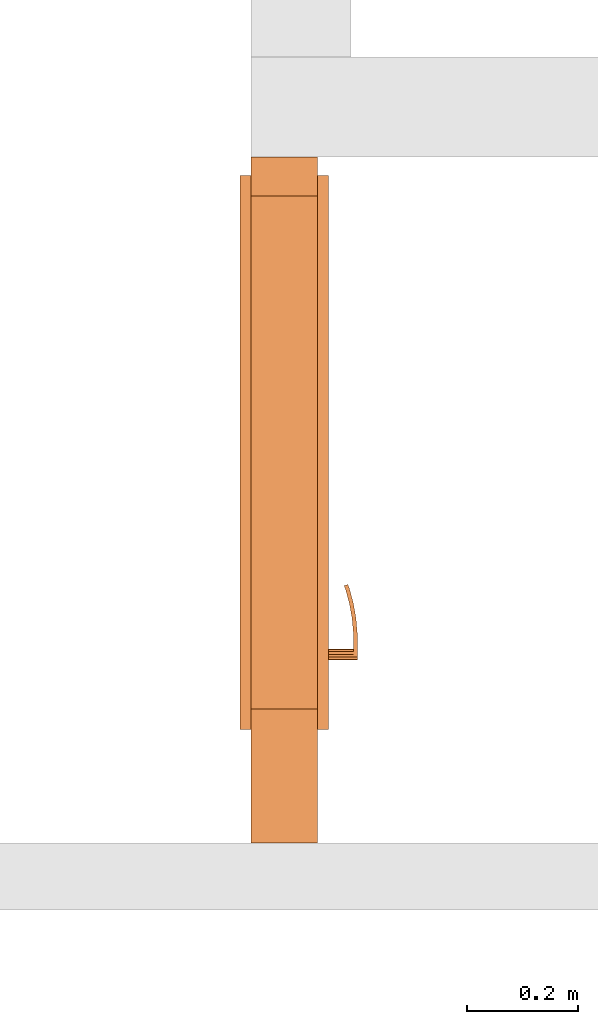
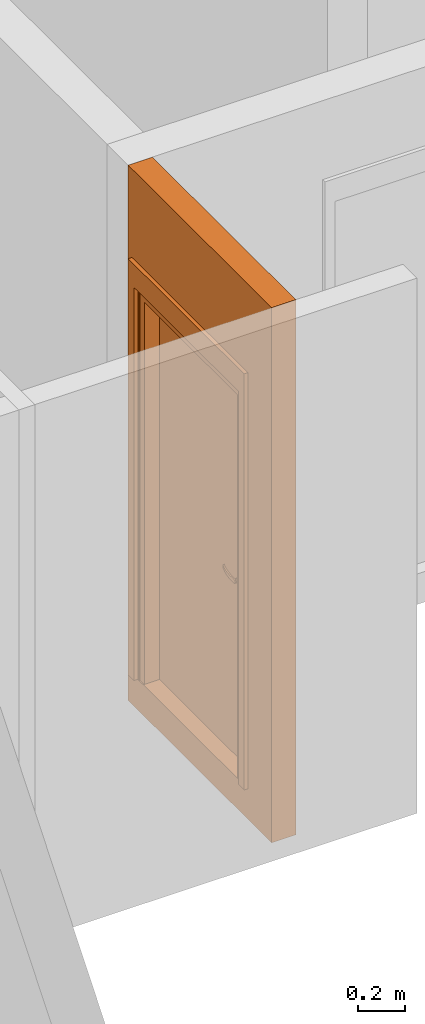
# One storey, part 17 of 64: 2 proxies, 1 opening.
"""IFC2X3 building model written with IfcOpenShell, lengths in millimetres."""

from ifc_helpers import new_model, entity, si_unit, converted_unit, derived_unit, money_unit, direction, frame, origin_with_axes, origin_2d_with_axis, place, context, subcontext, project, spatial, rectangle, extrude, open_shell, faceted_brep, surface_model, source, transform, mapped, material, type_object, element, fill, save


model = new_model("IFC2X3")

# Units and contexts
model_context = context("Model", 3, precision=0.01, world=origin_with_axes(), true_north=direction((0.34421633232, 0.938890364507)))
body_context = subcontext(model_context, "Body", "Model", "MODEL_VIEW")
ifc_project = project(units=[si_unit("LENGTHUNIT", "METRE", prefix="MILLI"), si_unit("AREAUNIT", "SQUARE_METRE"), si_unit("VOLUMEUNIT", "CUBIC_METRE"), converted_unit("PLANEANGLEUNIT", "DEGREE", entity("IfcPlaneAngleMeasure", 0.0174532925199), si_unit("PLANEANGLEUNIT", "RADIAN"), dimensions=[0, 0, 0, 0, 0, 0, 0]), si_unit("SOLIDANGLEUNIT", "STERADIAN"), money_unit("USD"), converted_unit("TIMEUNIT", "Year", entity("IfcTimeMeasure", 31556926.0), si_unit("TIMEUNIT", "SECOND"), dimensions=[0, 0, 1, 0, 0, 0, 0]), si_unit("MASSUNIT", "GRAM", prefix="KILO"), si_unit("THERMODYNAMICTEMPERATUREUNIT", "DEGREE_CELSIUS"), si_unit("LUMINOUSINTENSITYUNIT", "LUMEN"), si_unit("ENERGYUNIT", "JOULE", prefix="MEGA"), derived_unit("THERMALCONDUCTANCEUNIT", [(si_unit("POWERUNIT", "WATT"), 1), (si_unit("LENGTHUNIT", "METRE"), -1), (si_unit("THERMODYNAMICTEMPERATUREUNIT", "KELVIN"), -1)]), derived_unit("SPECIFICHEATCAPACITYUNIT", [(si_unit("ENERGYUNIT", "JOULE"), 1), (si_unit("MASSUNIT", "GRAM", prefix="KILO"), -1), (si_unit("THERMODYNAMICTEMPERATUREUNIT", "KELVIN"), -1)]), derived_unit("MASSDENSITYUNIT", [(si_unit("MASSUNIT", "GRAM", prefix="KILO"), 1), (si_unit("VOLUMEUNIT", "CUBIC_METRE"), -1)])], contexts=[model_context])

# Site, building, storey
site_placement = place(None, origin_with_axes())
site = spatial("IfcSite", under=ifc_project, at=site_placement, Name="USTRONIE MORSKIE", CompositionType="ELEMENT")
building_placement = place(site_placement, origin_with_axes())
building = spatial("IfcBuilding", under=site, at=building_placement, Name="Budynek", CompositionType="ELEMENT")
storey_placement = place(building_placement, frame((0.0, 0.0, 7000.0), z_axis=(0.0, 0.0, 1.0), x_axis=(1.0, 0.0, 0.0)))
storey = spatial("IfcBuildingStorey", under=building, at=storey_placement, Name="PIĘTRO 2", CompositionType="ELEMENT", Elevation=7000.0)

# Proxies, opening
ifc_material = material(Name="Bloczki silikatowe")
building_element_proxy_type_1 = type_object("IfcBuildingElementProxyType", Name="Bloczki silikatowe 120", PredefinedType="NOTDEFINED")
proxy_1_placement = place(storey_placement, frame((387497.920919, 726446.199036, -160.0), z_axis=(0.0, 0.0, 1.0), x_axis=(0.0, 1.0, 0.0)))
proxy_1 = element("IfcBuildingElementProxy", 1, at=proxy_1_placement, inside=storey, type_object=building_element_proxy_type_1, material=ifc_material, Name="SW-04", context=body_context, shape_type="Brep", body=[
    faceted_brep([(1290.0, 60.0, 0.0), (1290.0, -60.0, 0.0), (59.9999999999, -60.0, 0.0), (59.9999999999, 60.0, 0.0), (1290.0, 60.0, 2800.0), (1290.0, -60.0, 2800.0), (59.9999999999, -60.0, 2800.0), (59.9999999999, 60.0, 2800.0)], [[[0, 1, 2, 3]], [[1, 0, 4, 5]], [[1, 5, 6, 2]], [[7, 3, 2, 6]], [[4, 0, 3, 7]], [[5, 4, 7, 6]]]),
])
opening_placement = place(proxy_1_placement, frame((760.0, 0.0, 160.0), z_axis=(0.0, 0.0, 1.0), x_axis=(1.0, 0.0, 0.0)))
opening = element("IfcOpeningElement", 2, at=opening_placement, cuts=proxy_1, Name="Dw.4", context=body_context, shape_type="SweptSolid", body=[
    extrude(rectangle(XDim=920.0, YDim=2070.0, at=origin_2d_with_axis()), frame((0.0, 120.0, 1035.0), z_axis=(0.0, 1.0, 0.0), x_axis=(1.0, 0.0, 0.0)), (0.0, 0.0, -1.0), 360.0),
    extrude(rectangle(XDim=994.0, YDim=2177.0, at=origin_2d_with_axis()), frame((0.0, 60.0, 1088.5), z_axis=(0.0, 1.0, 0.0), x_axis=(1.0, 0.0, 0.0)), (0.0, 0.0, 1.0), 120.0),
    extrude(rectangle(XDim=994.0, YDim=2177.0, at=origin_2d_with_axis()), frame((0.0, -60.0, 1088.5), z_axis=(0.0, -1.0, 0.0), x_axis=(1.0, 0.0, 0.0)), (0.0, 0.0, 1.0), 120.0),
])
building_element_proxy_type_2 = type_object("IfcBuildingElementProxyType", Name="Drzwi 23", PredefinedType="NOTDEFINED")
shared_shape = source(origin_with_axes(), body_context, "Body", "SurfaceModel", [
    faceted_brep([(460.0, -115.0, 0.0), (460.0, -120.0, 0.0), (435.0, -120.0, 0.0), (435.0, -115.0, 0.0), (460.0, -115.0, 2070.0), (460.0, -120.0, 2070.0), (435.0, -120.0, 2045.0), (435.0, -115.0, 2045.0)], [[[0, 1, 2, 3]], [[4, 5, 1, 0]], [[1, 5, 6, 2]], [[3, 2, 6, 7]], [[0, 3, 7, 4]], [[7, 6, 5, 4]]]),
    faceted_brep([(-460.0, -115.0, 2070.0), (-460.0, -120.0, 2070.0), (-435.0, -120.0, 2045.0), (-435.0, -115.0, 2045.0), (-460.0, -115.0, 0.0), (-460.0, -120.0, 0.0), (-435.0, -120.0, 0.0), (-435.0, -115.0, 0.0)], [[[0, 1, 2, 3]], [[4, 5, 1, 0]], [[1, 5, 6, 2]], [[3, 2, 6, 7]], [[0, 3, 7, 4]], [[7, 6, 5, 4]]]),
    faceted_brep([(435.0, -115.0, 2045.0), (435.0, -120.0, 2045.0), (-435.0, -120.0, 2045.0), (-435.0, -115.0, 2045.0), (460.0, -115.0, 2070.0), (460.0, -120.0, 2070.0), (-460.0, -120.0, 2070.0), (-460.0, -115.0, 2070.0)], [[[0, 1, 2, 3]], [[4, 5, 1, 0]], [[1, 5, 6, 2]], [[3, 2, 6, 7]], [[0, 3, 7, 4]], [[7, 6, 5, 4]]]),
    faceted_brep([(497.0, -139.0, 0.0), (447.0, -139.0, 0.0), (447.0, -120.0, 0.0), (497.0, -120.0, 0.0), (497.0, -139.0, 2177.0), (447.0, -139.0, 2057.0), (447.0, -120.0, 2057.0), (497.0, -120.0, 2177.0)], [[[0, 1, 2, 3]], [[0, 4, 5, 1]], [[1, 5, 6, 2]], [[3, 2, 6, 7]], [[4, 0, 3, 7]], [[5, 4, 7, 6]]]),
    faceted_brep([(-497.0, -139.0, 2177.0), (-447.0, -139.0, 2057.0), (-447.0, -120.0, 2057.0), (-497.0, -120.0, 2177.0), (-497.0, -139.0, 0.0), (-447.0, -139.0, 0.0), (-447.0, -120.0, 0.0), (-497.0, -120.0, 0.0)], [[[0, 1, 2, 3]], [[0, 4, 5, 1]], [[1, 5, 6, 2]], [[3, 2, 6, 7]], [[4, 0, 3, 7]], [[5, 4, 7, 6]]]),
    faceted_brep([(497.0, -139.0, 2177.0), (447.0, -139.0, 2057.0), (447.0, -120.0, 2057.0), (497.0, -120.0, 2177.0), (-497.0, -139.0, 2177.0), (-447.0, -139.0, 2057.0), (-447.0, -120.0, 2057.0), (-497.0, -120.0, 2177.0)], [[[0, 1, 2, 3]], [[0, 4, 5, 1]], [[1, 5, 6, 2]], [[3, 2, 6, 7]], [[4, 0, 3, 7]], [[5, 4, 7, 6]]]),
    faceted_brep([(497.0, 19.0, 0.0), (497.0, 0.0, 0.0), (447.0, 0.0, 0.0), (447.0, 19.0, 0.0), (497.0, 19.0, 2177.0), (497.0, 0.0, 2177.0), (447.0, 0.0, 2057.0), (447.0, 19.0, 2057.0)], [[[0, 1, 2, 3]], [[4, 5, 1, 0]], [[1, 5, 6, 2]], [[3, 2, 6, 7]], [[0, 3, 7, 4]], [[7, 6, 5, 4]]]),
    faceted_brep([(-497.0, 19.0, 2177.0), (-497.0, 0.0, 2177.0), (-447.0, 0.0, 2057.0), (-447.0, 19.0, 2057.0), (-497.0, 19.0, 0.0), (-497.0, 0.0, 0.0), (-447.0, 0.0, 0.0), (-447.0, 19.0, 0.0)], [[[0, 1, 2, 3]], [[4, 5, 1, 0]], [[1, 5, 6, 2]], [[3, 2, 6, 7]], [[0, 3, 7, 4]], [[7, 6, 5, 4]]]),
    faceted_brep([(497.0, 19.0, 2177.0), (497.0, 0.0, 2177.0), (447.0, 0.0, 2057.0), (447.0, 19.0, 2057.0), (-497.0, 19.0, 2177.0), (-497.0, 0.0, 2177.0), (-447.0, 0.0, 2057.0), (-447.0, 19.0, 2057.0)], [[[0, 1, 2, 3]], [[4, 5, 1, 0]], [[1, 5, 6, 2]], [[3, 2, 6, 7]], [[0, 3, 7, 4]], [[7, 6, 5, 4]]]),
    faceted_brep([(400.0, -40.0, 0.0), (400.0, -115.0, 0.0), (400.0, -115.0, 2000.0), (400.0, -40.0, 2000.0), (412.0, -40.0, 0.0), (412.0, 0.0, 0.0), (460.0, 0.0, 0.0), (460.0, -115.0, 0.0), (460.0, -115.0, 2000.0), (412.0, -40.0, 2000.0), (460.0, 0.0, 2000.0), (412.0, 0.0, 2000.0)], [[[0, 1, 2, 3]], [[4, 5, 6, 7, 1, 0]], [[1, 7, 8, 2]], [[9, 3, 2, 8, 10, 11]], [[9, 4, 0, 3]], [[11, 5, 4, 9]], [[11, 10, 6, 5]], [[6, 10, 8, 7]]]),
    faceted_brep([(-412.0, -40.0, 2000.0), (-412.0, 0.0, 2000.0), (-460.0, 0.0, 2000.0), (-460.0, -115.0, 2000.0), (-400.0, -115.0, 2000.0), (-400.0, -40.0, 2000.0), (-412.0, -40.0, 0.0), (-412.0, 0.0, 0.0), (-460.0, 0.0, 0.0), (-460.0, -115.0, 0.0), (-400.0, -115.0, 0.0), (-400.0, -40.0, 0.0)], [[[0, 1, 2, 3, 4, 5]], [[0, 6, 7, 1]], [[7, 8, 2, 1]], [[2, 8, 9, 3]], [[3, 9, 10, 4]], [[5, 4, 10, 11]], [[5, 11, 6, 0]], [[6, 11, 10, 9, 8, 7]]]),
    faceted_brep([(412.0, 0.0, 2012.0), (-412.0, 0.0, 2012.0), (-412.0, 0.0, 2000.0), (-460.0, 0.0, 2000.0), (-460.0, 0.0, 2070.0), (460.0, 0.0, 2070.0), (460.0, 0.0, 2000.0), (412.0, 0.0, 2000.0), (412.0, -40.0, 2012.0), (-412.0, -40.0, 2012.0), (-412.0, -40.0, 2000.0), (-400.0, -40.0, 2000.0), (-400.0, -115.0, 2000.0), (-460.0, -115.0, 2000.0), (-460.0, -115.0, 2070.0), (460.0, -115.0, 2070.0), (460.0, -115.0, 2000.0), (412.0, -40.0, 2000.0), (400.0, -115.0, 2000.0), (400.0, -40.0, 2000.0)], [[[0, 1, 2, 3, 4, 5, 6, 7]], [[0, 8, 9, 1]], [[1, 9, 10, 2]], [[10, 11, 12, 13, 3, 2]], [[4, 3, 13, 14]], [[5, 4, 14, 15]], [[6, 5, 15, 16]], [[17, 7, 6, 16, 18, 19]], [[7, 17, 8, 0]], [[10, 9, 8, 17, 19, 11]], [[19, 18, 12, 11]], [[12, 18, 16, 15, 14, 13]]]),
    faceted_brep([(390.5, -40.0, 1060.0), (333.5, -40.0, 1060.0), (333.5, -43.0, 1060.0), (390.5, -43.0, 1060.0), (390.5, -40.0, 870.0), (333.5, -40.0, 870.0), (333.5, -43.0, 870.0), (390.5, -43.0, 870.0)], [[[0, 1, 2, 3]], [[0, 4, 5, 1]], [[1, 5, 6, 2]], [[3, 2, 6, 7]], [[4, 0, 3, 7]], [[5, 4, 7, 6]]]),
    faceted_brep([(362.0, -104.0, 990.0), (367.0, -104.0, 991.339745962), (367.0, -111.0, 991.339745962), (362.0, -111.0, 990.0), (337.0, -104.0, 990.0), (337.0, -104.0, 1010.0), (362.0, -104.0, 1010.0), (367.0, -104.0, 1008.66025404), (370.660254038, -104.0, 1005.0), (372.0, -104.0, 1000.0), (370.660254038, -104.0, 995.0), (370.660254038, -111.0, 995.0), (372.0, -111.0, 1000.0), (370.660254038, -111.0, 1005.0), (367.0, -111.0, 1008.66025404), (362.0, -111.0, 1010.0), (337.0, -111.0, 1010.0), (337.0, -111.0, 990.0)], [[[0, 1, 2, 3]], [[0, 4, 5, 6, 7, 8, 9, 10, 1]], [[1, 10, 11, 2]], [[3, 2, 11, 12, 13, 14, 15, 16, 17]], [[4, 0, 3, 17]], [[5, 4, 17, 16]], [[6, 5, 16, 15]], [[7, 6, 15, 14]], [[8, 7, 14, 13]], [[9, 8, 13, 12]], [[10, 9, 12, 11]]]),
    surface_model("IfcShellBasedSurfaceModel", [(337.0, -104.0, 1010.0), (323.901717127, -104.0, 1009.60730092), (323.596090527, -111.0, 1009.60730092), (337.0, -104.0, 990.0), (323.901717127, -104.0, 990.392699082), (296.890283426, -108.663544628, 1008.82190275), (337.0, -111.0, 1010.0), (337.0, -111.0, 990.0), (297.804837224, -101.716818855, 991.178097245), (297.804837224, -101.716818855, 1008.82190275), (296.890283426, -108.663544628, 991.178097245), (323.596090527, -111.0, 990.392699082), (272.006256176, -97.1678329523, 991.963495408), (272.006256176, -97.1678329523, 1008.03650459), (270.489735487, -104.008415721, 1008.03650459), (270.489735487, -104.008415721, 991.963495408), (246.702316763, -90.3876628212, 992.748893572), (246.702316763, -90.3876628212, 1007.25110643), (244.59537082, -97.0700416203, 1007.25110643), (244.59537082, -97.0700416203, 992.748893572), (238.829442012, -87.5221707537, 993.0), (238.829442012, -87.5221707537, 1007.0), (236.538795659, -94.1376880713, 1007.0), (236.538795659, -94.1376880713, 993.0)], [open_shell([[[0, 1, 2]], [[0, 3, 4, 1]], [[1, 5, 2]], [[0, 2, 6]], [[4, 3, 7]], [[1, 4, 8, 9]], [[1, 9, 5]], [[2, 5, 10, 11]], [[6, 2, 11, 7]], [[4, 7, 11]], [[8, 4, 11]], [[9, 8, 12, 13]], [[9, 14, 5]], [[5, 14, 15, 10]], [[8, 11, 10]], [[12, 8, 10]], [[13, 12, 16, 17]], [[9, 13, 14]], [[14, 18, 19, 15]], [[12, 10, 15]], [[16, 12, 15]], [[17, 16, 20, 21]], [[13, 17, 18]], [[13, 18, 14]], [[18, 22, 23, 19]], [[16, 15, 19]], [[20, 16, 19]], [[21, 20, 23, 22]], [[17, 21, 22]], [[17, 22, 18]], [[20, 19, 23]]])]),
    faceted_brep([(351.607695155, -53.0, 994.0), (350.0, -53.0, 1000.0), (349.0, -43.0, 1000.0), (350.741669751, -43.0, 993.5), (356.0, -53.0, 989.607695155), (362.0, -53.0, 988.0), (368.0, -53.0, 989.607695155), (372.392304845, -53.0, 994.0), (374.0, -53.0, 1000.0), (372.392304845, -53.0, 1006.0), (368.0, -53.0, 1010.39230485), (362.0, -53.0, 1012.0), (356.0, -53.0, 1010.39230485), (351.607695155, -53.0, 1006.0), (350.741669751, -43.0, 1006.5), (355.5, -43.0, 1011.25833025), (362.0, -43.0, 1013.0), (368.5, -43.0, 1011.25833025), (373.258330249, -43.0, 1006.5), (375.0, -43.0, 1000.0), (373.258330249, -43.0, 993.5), (368.5, -43.0, 988.741669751), (362.0, -43.0, 987.0), (355.5, -43.0, 988.741669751)], [[[0, 1, 2, 3]], [[1, 0, 4, 5, 6, 7, 8, 9, 10, 11, 12, 13]], [[1, 13, 14, 2]], [[2, 14, 15, 16, 17, 18, 19, 20, 21, 22, 23, 3]], [[4, 0, 3, 23]], [[5, 4, 23, 22]], [[6, 5, 22, 21]], [[7, 6, 21, 20]], [[8, 7, 20, 19]], [[9, 8, 19, 18]], [[10, 9, 18, 17]], [[11, 10, 17, 16]], [[12, 11, 16, 15]], [[13, 12, 15, 14]]]),
    faceted_brep([(344.679491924, -47.0, 895.0), (342.0, -47.0, 905.0), (340.0, -43.0, 905.0), (342.947441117, -43.0, 894.0), (352.0, -47.0, 887.679491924), (362.0, -47.0, 885.0), (372.0, -47.0, 887.679491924), (379.320508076, -47.0, 895.0), (382.0, -47.0, 905.0), (379.320508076, -47.0, 915.0), (372.0, -47.0, 922.320508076), (362.0, -47.0, 925.0), (352.0, -47.0, 922.320508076), (344.679491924, -47.0, 915.0), (342.947441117, -43.0, 916.0), (351.0, -43.0, 924.052558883), (362.0, -43.0, 927.0), (373.0, -43.0, 924.052558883), (381.052558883, -43.0, 916.0), (384.0, -43.0, 905.0), (381.052558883, -43.0, 894.0), (373.0, -43.0, 885.947441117), (362.0, -43.0, 883.0), (351.0, -43.0, 885.947441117)], [[[0, 1, 2, 3]], [[1, 0, 4, 5, 6, 7, 8, 9, 10, 11, 12, 13]], [[1, 13, 14, 2]], [[2, 14, 15, 16, 17, 18, 19, 20, 21, 22, 23, 3]], [[4, 0, 3, 23]], [[5, 4, 23, 22]], [[6, 5, 22, 21]], [[7, 6, 21, 20]], [[8, 7, 20, 19]], [[9, 8, 19, 18]], [[10, 9, 18, 17]], [[11, 10, 17, 16]], [[12, 11, 16, 15]], [[13, 12, 15, 14]]]),
    faceted_brep([(357.050252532, -49.0, 909.050252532), (355.0, -49.0, 914.0), (354.0, -47.0, 914.0), (356.343145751, -47.0, 908.343145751), (362.0, -49.0, 907.0), (366.949747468, -49.0, 909.050252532), (369.0, -49.0, 914.0), (366.949747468, -49.0, 918.949747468), (362.0, -49.0, 921.0), (357.050252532, -49.0, 918.949747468), (356.343145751, -47.0, 919.656854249), (362.0, -47.0, 922.0), (367.656854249, -47.0, 919.656854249), (370.0, -47.0, 914.0), (367.656854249, -47.0, 908.343145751), (362.0, -47.0, 906.0)], [[[0, 1, 2, 3]], [[1, 0, 4, 5, 6, 7, 8, 9]], [[1, 9, 10, 2]], [[2, 10, 11, 12, 13, 14, 15, 3]], [[4, 0, 3, 15]], [[5, 4, 15, 14]], [[6, 5, 14, 13]], [[7, 6, 13, 12]], [[8, 7, 12, 11]], [[9, 8, 11, 10]]]),
    faceted_brep([(362.0, -53.0, 1010.0), (357.0, -53.0, 1008.66025404), (357.0, -104.0, 1008.66025404), (362.0, -104.0, 1010.0), (367.0, -53.0, 1008.66025404), (370.660254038, -53.0, 1005.0), (372.0, -53.0, 1000.0), (370.660254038, -53.0, 995.0), (367.0, -53.0, 991.339745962), (362.0, -53.0, 990.0), (357.0, -53.0, 991.339745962), (353.339745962, -53.0, 995.0), (352.0, -53.0, 1000.0), (353.339745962, -53.0, 1005.0), (353.339745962, -104.0, 1005.0), (352.0, -104.0, 1000.0), (353.339745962, -104.0, 995.0), (357.0, -104.0, 991.339745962), (362.0, -104.0, 990.0), (367.0, -104.0, 991.339745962), (370.660254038, -104.0, 995.0), (372.0, -104.0, 1000.0), (370.660254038, -104.0, 1005.0), (367.0, -104.0, 1008.66025404)], [[[0, 1, 2, 3]], [[0, 4, 5, 6, 7, 8, 9, 10, 11, 12, 13, 1]], [[1, 13, 14, 2]], [[3, 2, 14, 15, 16, 17, 18, 19, 20, 21, 22, 23]], [[4, 0, 3, 23]], [[5, 4, 23, 22]], [[6, 5, 22, 21]], [[7, 6, 21, 20]], [[8, 7, 20, 19]], [[9, 8, 19, 18]], [[10, 9, 18, 17]], [[11, 10, 17, 16]], [[12, 11, 16, 15]], [[13, 12, 15, 14]]]),
    faceted_brep([(390.5, 0.0, 1060.0), (390.5, 3.0, 1060.0), (333.5, 3.0, 1060.0), (333.5, 0.0, 1060.0), (390.5, 0.0, 870.0), (390.5, 3.0, 870.0), (333.5, 3.0, 870.0), (333.5, 0.0, 870.0)], [[[0, 1, 2, 3]], [[4, 5, 1, 0]], [[1, 5, 6, 2]], [[3, 2, 6, 7]], [[0, 3, 7, 4]], [[7, 6, 5, 4]]]),
    faceted_brep([(362.0, 64.0, 990.0), (362.0, 71.0, 990.0), (367.0, 71.0, 991.339745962), (367.0, 64.0, 991.339745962), (337.0, 64.0, 990.0), (337.0, 71.0, 990.0), (337.0, 71.0, 1010.0), (362.0, 71.0, 1010.0), (367.0, 71.0, 1008.66025404), (370.660254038, 71.0, 1005.0), (372.0, 71.0, 1000.0), (370.660254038, 71.0, 995.0), (370.660254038, 64.0, 995.0), (372.0, 64.0, 1000.0), (370.660254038, 64.0, 1005.0), (367.0, 64.0, 1008.66025404), (362.0, 64.0, 1010.0), (337.0, 64.0, 1010.0)], [[[0, 1, 2, 3]], [[4, 5, 1, 0]], [[1, 5, 6, 7, 8, 9, 10, 11, 2]], [[3, 2, 11, 12]], [[0, 3, 12, 13, 14, 15, 16, 17, 4]], [[17, 6, 5, 4]], [[16, 7, 6, 17]], [[15, 8, 7, 16]], [[14, 9, 8, 15]], [[13, 10, 9, 14]], [[12, 11, 10, 13]]]),
    surface_model("IfcShellBasedSurfaceModel", [(337.0, 64.0, 1010.0), (323.596090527, 71.0, 1009.60730092), (323.901717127, 64.0, 1009.60730092), (337.0, 71.0, 1010.0), (296.890283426, 68.6635446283, 1008.82190275), (323.901717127, 64.0, 990.392699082), (337.0, 64.0, 990.0), (337.0, 71.0, 990.0), (323.596090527, 71.0, 990.392699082), (296.890283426, 68.6635446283, 991.178097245), (297.804837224, 61.716818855, 1008.82190275), (297.804837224, 61.716818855, 991.178097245), (270.489735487, 64.0084157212, 991.963495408), (270.489735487, 64.0084157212, 1008.03650459), (272.006256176, 57.1678329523, 1008.03650459), (272.006256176, 57.1678329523, 991.963495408), (244.59537082, 57.0700416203, 992.748893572), (244.59537082, 57.0700416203, 1007.25110643), (246.702316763, 50.3876628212, 1007.25110643), (246.702316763, 50.3876628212, 992.748893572), (236.538795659, 54.1376880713, 993.0), (236.538795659, 54.1376880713, 1007.0), (238.829442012, 47.5221707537, 1007.0), (238.829442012, 47.5221707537, 993.0)], [open_shell([[[0, 1, 2]], [[0, 3, 1]], [[2, 1, 4]], [[0, 2, 5, 6]], [[3, 7, 8, 1]], [[1, 8, 9, 4]], [[2, 4, 10]], [[2, 10, 11, 5]], [[5, 7, 6]], [[5, 8, 7]], [[11, 9, 8]], [[4, 9, 12, 13]], [[10, 4, 13]], [[10, 14, 15, 11]], [[11, 8, 5]], [[15, 9, 11]], [[15, 12, 9]], [[13, 12, 16, 17]], [[10, 13, 14]], [[14, 18, 19, 15]], [[19, 12, 15]], [[19, 16, 12]], [[17, 16, 20, 21]], [[14, 13, 17]], [[14, 17, 18]], [[18, 22, 23, 19]], [[23, 16, 19]], [[23, 20, 16]], [[22, 21, 20, 23]], [[18, 17, 21]], [[18, 21, 22]]])]),
    faceted_brep([(351.607695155, 13.0, 994.0), (350.741669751, 3.0, 993.5), (349.0, 3.0, 1000.0), (350.0, 13.0, 1000.0), (356.0, 13.0, 989.607695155), (355.5, 3.0, 988.741669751), (362.0, 3.0, 987.0), (368.5, 3.0, 988.741669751), (373.258330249, 3.0, 993.5), (375.0, 3.0, 1000.0), (373.258330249, 3.0, 1006.5), (368.5, 3.0, 1011.25833025), (362.0, 3.0, 1013.0), (355.5, 3.0, 1011.25833025), (350.741669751, 3.0, 1006.5), (351.607695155, 13.0, 1006.0), (356.0, 13.0, 1010.39230485), (362.0, 13.0, 1012.0), (368.0, 13.0, 1010.39230485), (372.392304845, 13.0, 1006.0), (374.0, 13.0, 1000.0), (372.392304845, 13.0, 994.0), (368.0, 13.0, 989.607695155), (362.0, 13.0, 988.0)], [[[0, 1, 2, 3]], [[4, 5, 1, 0]], [[2, 1, 5, 6, 7, 8, 9, 10, 11, 12, 13, 14]], [[3, 2, 14, 15]], [[3, 15, 16, 17, 18, 19, 20, 21, 22, 23, 4, 0]], [[23, 6, 5, 4]], [[22, 7, 6, 23]], [[21, 8, 7, 22]], [[20, 9, 8, 21]], [[19, 10, 9, 20]], [[18, 11, 10, 19]], [[17, 12, 11, 18]], [[16, 13, 12, 17]], [[15, 14, 13, 16]]]),
    faceted_brep([(344.679491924, 7.0, 895.0), (342.947441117, 3.0, 894.0), (340.0, 3.0, 905.0), (342.0, 7.0, 905.0), (352.0, 7.0, 887.679491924), (351.0, 3.0, 885.947441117), (362.0, 3.0, 883.0), (373.0, 3.0, 885.947441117), (381.052558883, 3.0, 894.0), (384.0, 3.0, 905.0), (381.052558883, 3.0, 916.0), (373.0, 3.0, 924.052558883), (362.0, 3.0, 927.0), (351.0, 3.0, 924.052558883), (342.947441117, 3.0, 916.0), (344.679491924, 7.0, 915.0), (352.0, 7.0, 922.320508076), (362.0, 7.0, 925.0), (372.0, 7.0, 922.320508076), (379.320508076, 7.0, 915.0), (382.0, 7.0, 905.0), (379.320508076, 7.0, 895.0), (372.0, 7.0, 887.679491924), (362.0, 7.0, 885.0)], [[[0, 1, 2, 3]], [[4, 5, 1, 0]], [[2, 1, 5, 6, 7, 8, 9, 10, 11, 12, 13, 14]], [[3, 2, 14, 15]], [[3, 15, 16, 17, 18, 19, 20, 21, 22, 23, 4, 0]], [[23, 6, 5, 4]], [[22, 7, 6, 23]], [[21, 8, 7, 22]], [[20, 9, 8, 21]], [[19, 10, 9, 20]], [[18, 11, 10, 19]], [[17, 12, 11, 18]], [[16, 13, 12, 17]], [[15, 14, 13, 16]]]),
    faceted_brep([(357.050252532, 9.0, 909.050252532), (356.343145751, 7.0, 908.343145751), (354.0, 7.0, 914.0), (355.0, 9.0, 914.0), (362.0, 9.0, 907.0), (362.0, 7.0, 906.0), (367.656854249, 7.0, 908.343145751), (370.0, 7.0, 914.0), (367.656854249, 7.0, 919.656854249), (362.0, 7.0, 922.0), (356.343145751, 7.0, 919.656854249), (357.050252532, 9.0, 918.949747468), (362.0, 9.0, 921.0), (366.949747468, 9.0, 918.949747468), (369.0, 9.0, 914.0), (366.949747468, 9.0, 909.050252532)], [[[0, 1, 2, 3]], [[4, 5, 1, 0]], [[2, 1, 5, 6, 7, 8, 9, 10]], [[3, 2, 10, 11]], [[3, 11, 12, 13, 14, 15, 4, 0]], [[15, 6, 5, 4]], [[14, 7, 6, 15]], [[13, 8, 7, 14]], [[12, 9, 8, 13]], [[11, 10, 9, 12]]]),
    faceted_brep([(362.0, 13.0, 1010.0), (362.0, 64.0, 1010.0), (357.0, 64.0, 1008.66025404), (357.0, 13.0, 1008.66025404), (367.0, 13.0, 1008.66025404), (367.0, 64.0, 1008.66025404), (370.660254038, 64.0, 1005.0), (372.0, 64.0, 1000.0), (370.660254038, 64.0, 995.0), (367.0, 64.0, 991.339745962), (362.0, 64.0, 990.0), (357.0, 64.0, 991.339745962), (353.339745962, 64.0, 995.0), (352.0, 64.0, 1000.0), (353.339745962, 64.0, 1005.0), (353.339745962, 13.0, 1005.0), (352.0, 13.0, 1000.0), (353.339745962, 13.0, 995.0), (357.0, 13.0, 991.339745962), (362.0, 13.0, 990.0), (367.0, 13.0, 991.339745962), (370.660254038, 13.0, 995.0), (372.0, 13.0, 1000.0), (370.660254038, 13.0, 1005.0)], [[[0, 1, 2, 3]], [[4, 5, 1, 0]], [[1, 5, 6, 7, 8, 9, 10, 11, 12, 13, 14, 2]], [[3, 2, 14, 15]], [[0, 3, 15, 16, 17, 18, 19, 20, 21, 22, 23, 4]], [[23, 6, 5, 4]], [[22, 7, 6, 23]], [[21, 8, 7, 22]], [[20, 9, 8, 21]], [[19, 10, 9, 20]], [[18, 11, 10, 19]], [[17, 12, 11, 18]], [[16, 13, 12, 17]], [[15, 14, 13, 16]]]),
    faceted_brep([(-412.0, 0.0, 0.0), (412.0, 0.0, 0.0), (412.0, -40.0, 0.0), (-412.0, -40.0, 0.0), (-412.0, 0.0, 2012.0), (412.0, 0.0, 2012.0), (412.0, -40.0, 2012.0), (-412.0, -40.0, 2012.0)], [[[0, 1, 2, 3]], [[0, 4, 5, 1]], [[1, 5, 6, 2]], [[3, 2, 6, 7]], [[4, 0, 3, 7]], [[5, 4, 7, 6]]]),
])
proxy_2_placement = place(opening_placement, frame((400.0, 0.0, 0.0), z_axis=(0.0, 0.0, 1.0), x_axis=(-1.0, 0.0, 0.0)))
proxy_2 = element("IfcBuildingElementProxy", 3, at=proxy_2_placement, inside=storey, type_object=building_element_proxy_type_2, Name="Dw.4", context=body_context, shape_type="MappedRepresentation", body=[
    mapped(shared_shape, transform((400.0, 60.0, 0.0))),
])
fill(opening, proxy_2)

save(model, "model.ifc")
